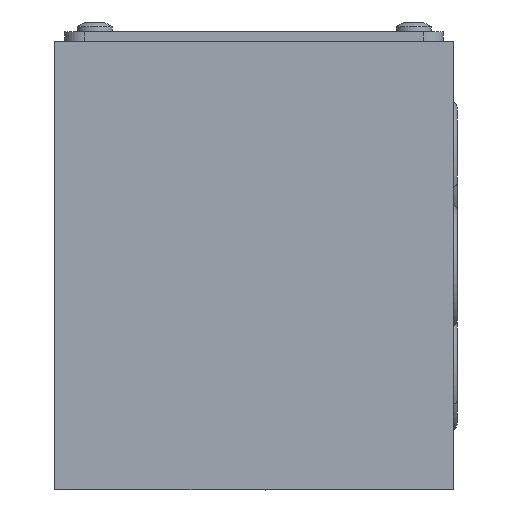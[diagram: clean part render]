
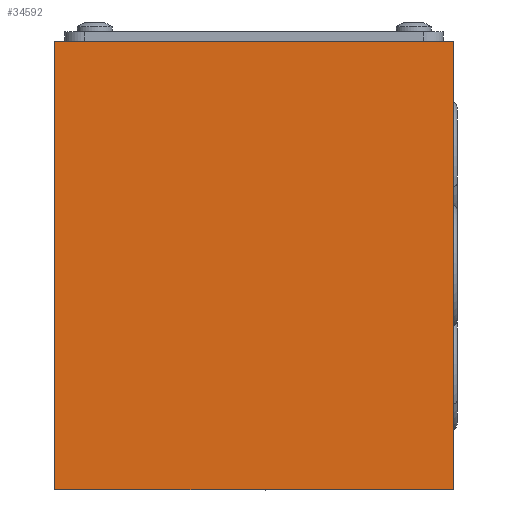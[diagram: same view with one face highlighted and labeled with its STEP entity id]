
A CAD part, left-side view. The second image highlights one B-rep face of the part: STEP entity #34592.
In plain terms, the highlighted planar face has unit normal (-1, 0, 0) as drawn and (0, 0, 1) by its records, which use the part's own axes.
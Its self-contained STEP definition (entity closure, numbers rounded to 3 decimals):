
#7291 = VECTOR ( 'NONE', #99326, 1000. ) ;
#8050 = CARTESIAN_POINT ( 'NONE',  ( 22.5, 20., 39.25 ) ) ;
#10528 = CARTESIAN_POINT ( 'NONE',  ( -22.5, -20., 39.25 ) ) ;
#19414 = CARTESIAN_POINT ( 'NONE',  ( -22.5, 20., 39.25 ) ) ;
#20427 = EDGE_CURVE ( 'NONE', #21037, #95558, #40798, .T. ) ;
#20959 = PLANE ( 'NONE',  #100290 ) ;
#21037 = VERTEX_POINT ( 'NONE', #23454 ) ;
#21364 = EDGE_CURVE ( 'NONE', #73518, #21037, #58196, .T. ) ;
#23454 = CARTESIAN_POINT ( 'NONE',  ( 22.5, -20., 39.25 ) ) ;
#29157 = CARTESIAN_POINT ( 'NONE',  ( -22.5, -20., 39.25 ) ) ;
#29527 = CARTESIAN_POINT ( 'NONE',  ( -22.5, 20., 39.25 ) ) ;
#34592 = ADVANCED_FACE ( 'NONE', ( #47945 ), #20959, .T. ) ;
#35543 = VECTOR ( 'NONE', #78113, 1000. ) ;
#37298 = DIRECTION ( 'NONE',  ( 0., 0., 1. ) ) ;
#40798 = LINE ( 'NONE', #44566, #62305 ) ;
#41646 = EDGE_CURVE ( 'NONE', #95558, #79072, #59651, .T. ) ;
#44566 = CARTESIAN_POINT ( 'NONE',  ( 22.5, 20., 39.25 ) ) ;
#47945 = FACE_OUTER_BOUND ( 'NONE', #103478, .T. ) ;
#50709 = CARTESIAN_POINT ( 'NONE',  ( -22.5, 20., 39.25 ) ) ;
#57271 = ORIENTED_EDGE ( 'NONE', *, *, #73003, .T. ) ;
#58196 = LINE ( 'NONE', #103594, #79729 ) ;
#59651 = LINE ( 'NONE', #29527, #35543 ) ;
#62305 = VECTOR ( 'NONE', #101425, 1000. ) ;
#63091 = DIRECTION ( 'NONE',  ( 1., 0., 0. ) ) ;
#67509 = ORIENTED_EDGE ( 'NONE', *, *, #41646, .T. ) ;
#73003 = EDGE_CURVE ( 'NONE', #79072, #73518, #93544, .T. ) ;
#73518 = VERTEX_POINT ( 'NONE', #10528 ) ;
#76990 = ORIENTED_EDGE ( 'NONE', *, *, #20427, .T. ) ;
#78113 = DIRECTION ( 'NONE',  ( -1., 0., 0. ) ) ;
#78681 = ORIENTED_EDGE ( 'NONE', *, *, #21364, .T. ) ;
#79072 = VERTEX_POINT ( 'NONE', #19414 ) ;
#79729 = VECTOR ( 'NONE', #63091, 1000. ) ;
#93544 = LINE ( 'NONE', #50709, #7291 ) ;
#94034 = DIRECTION ( 'NONE',  ( 1., 0., 0. ) ) ;
#95558 = VERTEX_POINT ( 'NONE', #8050 ) ;
#99326 = DIRECTION ( 'NONE',  ( 0., -1., 0. ) ) ;
#100290 = AXIS2_PLACEMENT_3D ( 'NONE', #29157, #37298, #94034 ) ;
#101425 = DIRECTION ( 'NONE',  ( 0., 1., 0. ) ) ;
#103478 = EDGE_LOOP ( 'NONE', ( #57271, #78681, #76990, #67509 ) ) ;
#103594 = CARTESIAN_POINT ( 'NONE',  ( -22.5, -20., 39.25 ) ) ;
